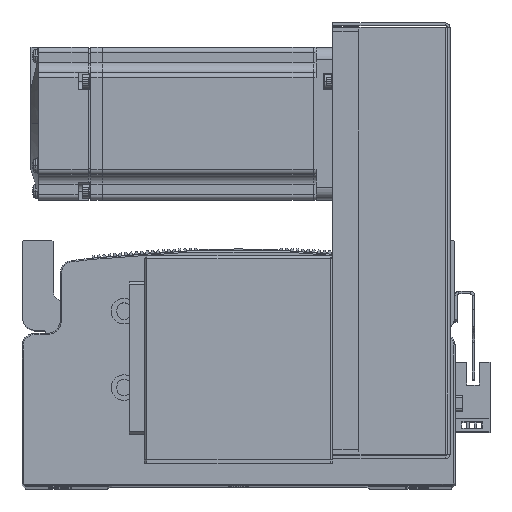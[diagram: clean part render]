
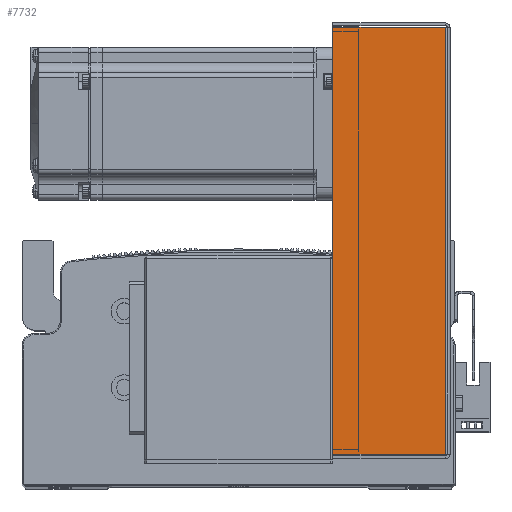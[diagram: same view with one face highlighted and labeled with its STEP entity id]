
A CAD part, top view. The second image highlights one B-rep face of the part: STEP entity #7732.
In plain terms, the highlighted planar face has unit normal (0, 0, 1).
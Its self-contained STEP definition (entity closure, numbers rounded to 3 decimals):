
#739 = VERTEX_POINT ( 'NONE', #29499 ) ;
#801 = VERTEX_POINT ( 'NONE', #29540 ) ;
#802 = VERTEX_POINT ( 'NONE', #29562 ) ;
#805 = VERTEX_POINT ( 'NONE', #29538 ) ;
#7732 = ADVANCED_FACE ( 'NONE', ( #45099 ), #44967, .F. ) ;
#12234 = EDGE_CURVE ( 'NONE', #801, #805, #35023, .T. ) ;
#12279 = EDGE_CURVE ( 'NONE', #802, #739, #35052, .T. ) ;
#12383 = EDGE_CURVE ( 'NONE', #739, #805, #35143, .T. ) ;
#12457 = EDGE_CURVE ( 'NONE', #802, #801, #35264, .T. ) ;
#21963 = DIRECTION ( 'NONE',  ( -1., 0., 0. ) ) ;
#21996 = CARTESIAN_POINT ( 'NONE',  ( -84.5, 45., 40.5 ) ) ;
#22141 = CARTESIAN_POINT ( 'NONE',  ( 0., 0.737, 40.5 ) ) ;
#22176 = DIRECTION ( 'NONE',  ( -1., 0., 0. ) ) ;
#22442 = CARTESIAN_POINT ( 'NONE',  ( -83.793, 0., 40.5 ) ) ;
#22443 = DIRECTION ( 'NONE',  ( 0., 1., 0. ) ) ;
#22647 = CARTESIAN_POINT ( 'NONE',  ( 83.793, 0., 40.5 ) ) ;
#22701 = DIRECTION ( 'NONE',  ( 0., 1., 0. ) ) ;
#29499 = CARTESIAN_POINT ( 'NONE',  ( -83.793, 0.737, 40.5 ) ) ;
#29538 = CARTESIAN_POINT ( 'NONE',  ( -83.793, 45., 40.5 ) ) ;
#29540 = CARTESIAN_POINT ( 'NONE',  ( 83.793, 45., 40.5 ) ) ;
#29562 = CARTESIAN_POINT ( 'NONE',  ( 83.793, 0.737, 40.5 ) ) ;
#34979 = VECTOR ( 'NONE', #22176, 1000. ) ;
#35023 = LINE ( 'NONE', #21996, #35081 ) ;
#35052 = LINE ( 'NONE', #22141, #34979 ) ;
#35081 = VECTOR ( 'NONE', #21963, 1000. ) ;
#35143 = LINE ( 'NONE', #22442, #35244 ) ;
#35217 = VECTOR ( 'NONE', #22701, 1000. ) ;
#35244 = VECTOR ( 'NONE', #22443, 1000. ) ;
#35264 = LINE ( 'NONE', #22647, #35217 ) ;
#42551 = AXIS2_PLACEMENT_3D ( 'NONE', #44969, #44950, #44875 ) ;
#44875 = DIRECTION ( 'NONE',  ( -1., 0., 0. ) ) ;
#44950 = DIRECTION ( 'NONE',  ( 0., 0., -1. ) ) ;
#44967 = PLANE ( 'NONE',  #42551 ) ;
#44969 = CARTESIAN_POINT ( 'NONE',  ( 0., 0., 40.5 ) ) ;
#45099 = FACE_OUTER_BOUND ( 'NONE', #58812, .T. ) ;
#58812 = EDGE_LOOP ( 'NONE', ( #64939, #64833, #64933, #64876 ) ) ;
#64833 = ORIENTED_EDGE ( 'NONE', *, *, #12457, .T. ) ;
#64876 = ORIENTED_EDGE ( 'NONE', *, *, #12383, .F. ) ;
#64933 = ORIENTED_EDGE ( 'NONE', *, *, #12234, .T. ) ;
#64939 = ORIENTED_EDGE ( 'NONE', *, *, #12279, .F. ) ;
